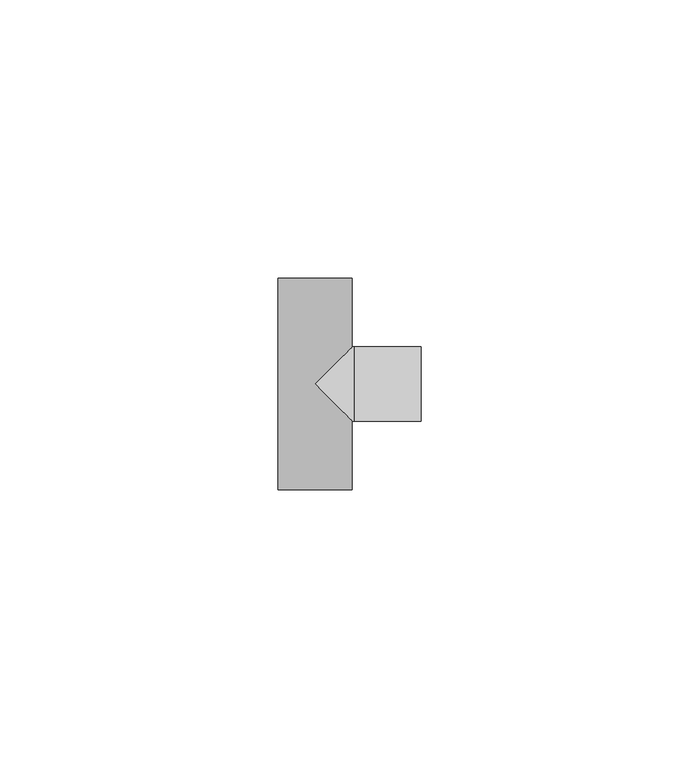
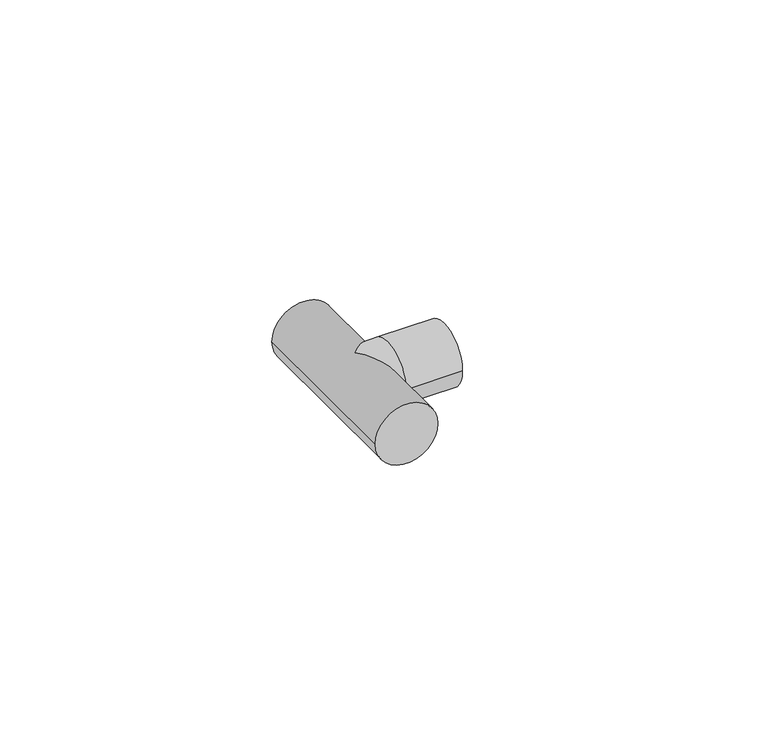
"""IFC4 building model written with IfcOpenShell, lengths in millimetres: pipe fitting geometry, 01051003 : Tes 90º."""

from ifc_helpers import new_model, si_unit, frame, origin, place, context, project, spatial, circle_curve, ellipse_curve, source, transform, mapped, element, save
from ifc_brep_helpers import plane_surface, cylinder_surface, advanced_brep


def pipe_fitting_e9f87e1e(model_context):
    return source(origin(), model_context, "Body", "AdvancedBrep", [
        advanced_brep(
        [(-6.65, 19.0, 0.0), (6.65, 19.0, 0.0), (-6.65, -19.0, 0.0), (6.65, -19.0, 0.0), (6.65, -6.65, 0.0), (0.0, 0.0, 6.65), (6.65, 6.65, 0.0), (0.0, 0.0, -6.65), (19.0, 6.65, 0.0), (19.0, -6.65, 0.0), (7.0, -6.65, 0.0), (7.0, 6.65, 0.0)],
        [
            (0, 1, circle_curve(frame((0.0, 19.0, 0.0), z_axis=(0.0, 1.0, 0.0), x_axis=(1.0, 0.0, 0.0)), 6.65)),
            (1, 0, circle_curve(frame((0.0, 19.0, 0.0), z_axis=(0.0, 1.0, 0.0), x_axis=(1.0, 0.0, 0.0)), 6.65)),
            (2, 3, circle_curve(frame((0.0, -19.0, 0.0), z_axis=(0.0, -1.0, 0.0), x_axis=(1.0, 0.0, 0.0)), 6.65)),
            (3, 2, circle_curve(frame((0.0, -19.0, 0.0), z_axis=(0.0, -1.0, 0.0), x_axis=(1.0, 0.0, 0.0)), 6.65)),
            (0, 2),
            (3, 4),
            (4, 5, ellipse_curve(frame((0.0, 0.0, 0.0), z_axis=(-0.7071067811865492, -0.7071067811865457, 0.0), x_axis=(-0.7071067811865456, 0.7071067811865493, 0.0)), 9.4045202, 6.65)),
            (5, 6, ellipse_curve(frame((0.0, 0.0, 0.0), z_axis=(-0.7071067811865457, 0.7071067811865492, 0.0), x_axis=(0.7071067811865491, 0.7071067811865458, 0.0)), 9.4045202, 6.65)),
            (6, 1),
            (6, 7, ellipse_curve(frame((0.0, 0.0, 0.0), z_axis=(-0.7071067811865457, 0.7071067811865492, 0.0), x_axis=(0.7071067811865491, 0.7071067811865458, 0.0)), 9.4045202, 6.65)),
            (7, 4, ellipse_curve(frame((0.0, 0.0, 0.0), z_axis=(-0.7071067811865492, -0.7071067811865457, 0.0), x_axis=(-0.7071067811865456, 0.7071067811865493, 0.0)), 9.4045202, 6.65)),
            (8, 9, circle_curve(frame((19.0, 0.0, 0.0), z_axis=(1.0, 0.0, 0.0), x_axis=(0.0, -1.0, 0.0)), 6.65)),
            (9, 8, circle_curve(frame((19.0, 0.0, 0.0), z_axis=(1.0, 0.0, 0.0), x_axis=(0.0, -1.0, 0.0)), 6.65)),
            (10, 11, circle_curve(frame((7.0, 0.0, 0.0), z_axis=(-1.0, 0.0, 0.0), x_axis=(0.0, -1.0, 0.0)), 6.65)),
            (11, 6),
            (4, 10),
            (11, 10, circle_curve(frame((7.0, 0.0, 0.0), z_axis=(-1.0, 0.0, 0.0), x_axis=(0.0, -1.0, 0.0)), 6.65)),
            (8, 11),
            (10, 9),
        ],
        [
            plane_surface(frame((0.0, 19.0, 0.0), z_axis=(0.0, 1.0, 0.0), x_axis=(0.0, 0.0, 1.0))),
            plane_surface(frame((0.0, -19.0, 0.0), z_axis=(0.0, -1.0, 0.0), x_axis=(0.0, 0.0, 1.0))),
            cylinder_surface(frame((0.0, 19.0, 0.0), z_axis=(0.0, 1.0, 0.0), x_axis=(1.0, 0.0, 0.0)), 6.65),
            plane_surface(frame((19.0, 0.0, 0.0), z_axis=(1.0, 0.0, 0.0), x_axis=(0.0, 0.0, 1.0))),
            cylinder_surface(frame((7.0, 0.0, 0.0), z_axis=(1.0, 0.0, 0.0), x_axis=(0.0, -1.0, 0.0)), 6.65),
            cylinder_surface(frame((19.0, 0.0, 0.0), z_axis=(1.0, 0.0, 0.0), x_axis=(0.0, -1.0, 0.0)), 6.65),
        ],
        [
            (0, [[1, 2]]),
            (1, [[3, 4]]),
            (2, [[-1, 5, -4, 6, 7, 8, 9]]),
            (2, [[-2, -9, 10, 11, -6, -3, -5]]),
            (3, [[12, 13]]),
            (4, [[14, 15, -8, -7, 16]]),
            (4, [[17, -16, -11, -10, -15]]),
            (5, [[-12, 18, -14, 19]]),
            (5, [[-13, -19, -17, -18]]),
        ],
    ),
    ])


if __name__ == "__main__":
    model = new_model("IFC4")
    model_context = context("Model", 3, world=origin())
    ifc_project = project(units=[si_unit("LENGTHUNIT", "METRE", prefix="MILLI")], contexts=[model_context])
    site = spatial("IfcSite", under=ifc_project)
    building = spatial("IfcBuilding", under=site)
    placement = place(None, origin())
    pipe_fitting_shape = pipe_fitting_e9f87e1e(model_context)
    element("IfcPipeFitting", 1, ObjectType="01051003 : Tes 90º", at=placement, inside=building, context=model_context, shape_type="MappedRepresentation", body=[
        mapped(pipe_fitting_shape, transform((0.0, 0.0, 0.0), x_axis=(1.0, 0.0, 0.0), y_axis=(0.0, 1.0, 0.0), z_axis=(0.0, 0.0, 1.0))),
    ])
    save(model, "model.ifc")
